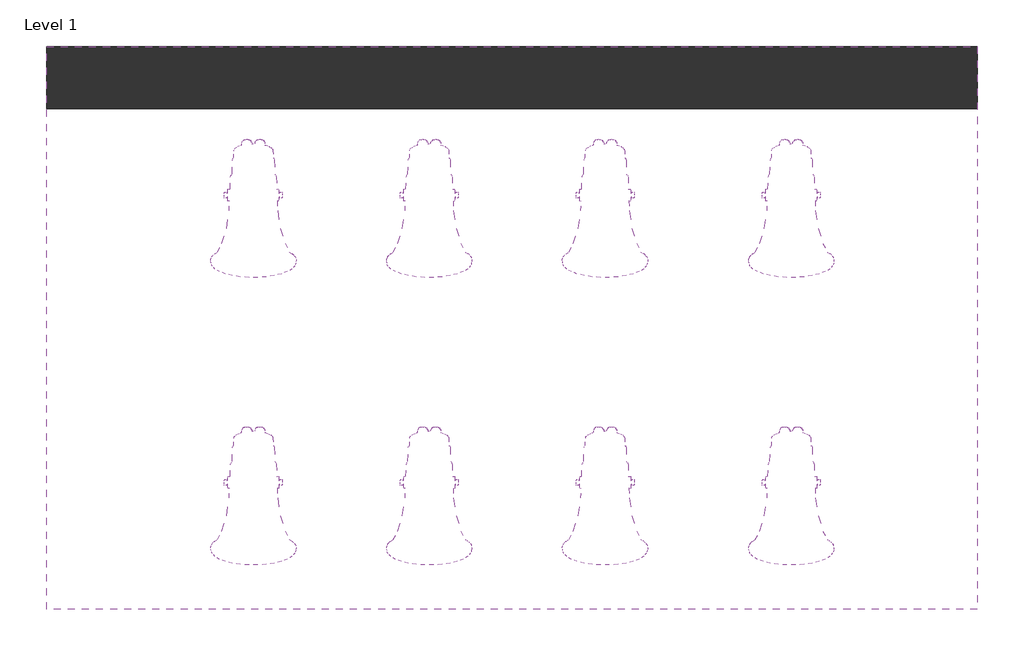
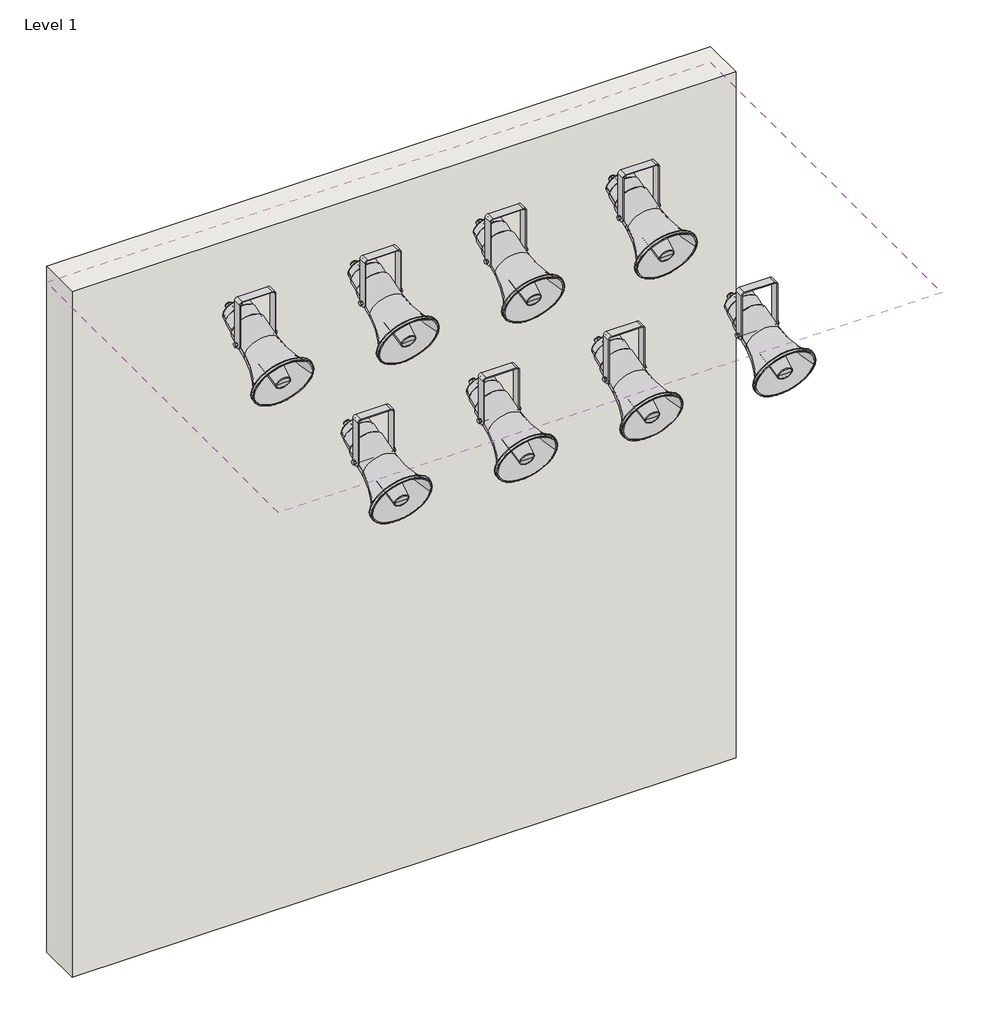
# One storey: 8 proxies, 1 covering, 1 wall.
"""IFC4 building model written with IfcOpenShell, lengths in millimetres."""

from ifc_helpers import new_model, si_unit, frame, origin, origin_with_axes, place, context, project, spatial, polyline, outline, extrude, transform, mapped, element, save
from components import communication_devices_c37ef485

model = new_model("IFC4")

# Units and contexts
model_context = context("Model", 3, world=origin())
ifc_project = project(units=[si_unit("LENGTHUNIT", "METRE", prefix="MILLI")], contexts=[model_context])

# Site, building, storey
site = spatial("IfcSite", under=ifc_project)
building = spatial("IfcBuilding", under=site)
storey = spatial("IfcBuildingStorey", under=building, Name="Level 1", Elevation=0.0)

# Proxies
placement = place(None, origin())
communication_devices_shape = communication_devices_c37ef485(model_context)
element("IfcBuildingElementProxy", 1, Name="DK 15T-EN54-PG : DK 15/T-EN54-PG", ObjectType="DK 15T-EN54-PG : DK 15/T-EN54-PG", at=placement, inside=storey, context=model_context, shape_type="MappedRepresentation", body=[
    mapped(communication_devices_shape, transform((2341.1973575, 1750.5766815, 2438.4), x_axis=(-1.0, 0.0, 0.0), y_axis=(0.0, 1.0, 0.0), z_axis=(0.0, 0.0, -1.0))),
])
element("IfcBuildingElementProxy", 2, Name="DK 15T-EN54-PG : DK 15/T-EN54-PG", ObjectType="DK 15T-EN54-PG : DK 15/T-EN54-PG", at=placement, inside=storey, context=model_context, shape_type="MappedRepresentation", body=[
    mapped(communication_devices_shape, transform((2772.9973575, 1750.5766815, 2438.4), x_axis=(-1.0, 0.0, 0.0), y_axis=(0.0, 1.0, 0.0), z_axis=(0.0, 0.0, -1.0))),
])
element("IfcBuildingElementProxy", 3, Name="DK 15T-EN54-PG : DK 15/T-EN54-PG", ObjectType="DK 15T-EN54-PG : DK 15/T-EN54-PG", at=placement, inside=storey, context=model_context, shape_type="MappedRepresentation", body=[
    mapped(communication_devices_shape, transform((3204.7973575, 1750.5766815, 2438.4), x_axis=(-1.0, 0.0, 0.0), y_axis=(0.0, 1.0, 0.0), z_axis=(0.0, 0.0, -1.0))),
])
element("IfcBuildingElementProxy", 4, Name="DK 15T-EN54-PG : DK 15/T-EN54-PG", ObjectType="DK 15T-EN54-PG : DK 15/T-EN54-PG", at=placement, inside=storey, context=model_context, shape_type="MappedRepresentation", body=[
    mapped(communication_devices_shape, transform((3661.9973575, 1750.5766815, 2438.4), x_axis=(-1.0, 0.0, 0.0), y_axis=(0.0, 1.0, 0.0), z_axis=(0.0, 0.0, -1.0))),
])
element("IfcBuildingElementProxy", 5, Name="DK 15T-EN54-PG : DK 15/T-EN54-PG", ObjectType="DK 15T-EN54-PG : DK 15/T-EN54-PG", at=placement, inside=storey, context=model_context, shape_type="MappedRepresentation", body=[
    mapped(communication_devices_shape, transform((3661.9973575, 1044.1766815, 2438.4), x_axis=(-1.0, 0.0, 0.0), y_axis=(0.0, 1.0, 0.0), z_axis=(0.0, 0.0, -1.0))),
])
element("IfcBuildingElementProxy", 6, Name="DK 15T-EN54-PG : DK 15/T-EN54-PG", ObjectType="DK 15T-EN54-PG : DK 15/T-EN54-PG", at=placement, inside=storey, context=model_context, shape_type="MappedRepresentation", body=[
    mapped(communication_devices_shape, transform((3204.7973575, 1044.1766815, 2438.4), x_axis=(-1.0, 0.0, 0.0), y_axis=(0.0, 1.0, 0.0), z_axis=(0.0, 0.0, -1.0))),
])
element("IfcBuildingElementProxy", 7, Name="DK 15T-EN54-PG : DK 15/T-EN54-PG", ObjectType="DK 15T-EN54-PG : DK 15/T-EN54-PG", at=placement, inside=storey, context=model_context, shape_type="MappedRepresentation", body=[
    mapped(communication_devices_shape, transform((2772.9973575, 1044.1766815, 2438.4), x_axis=(-1.0, 0.0, 0.0), y_axis=(0.0, 1.0, 0.0), z_axis=(0.0, 0.0, -1.0))),
])
element("IfcBuildingElementProxy", 8, Name="DK 15T-EN54-PG : DK 15/T-EN54-PG", ObjectType="DK 15T-EN54-PG : DK 15/T-EN54-PG", at=placement, inside=storey, context=model_context, shape_type="MappedRepresentation", body=[
    mapped(communication_devices_shape, transform((2341.1973575, 1044.1766815, 2438.4), x_axis=(-1.0, 0.0, 0.0), y_axis=(0.0, 1.0, 0.0), z_axis=(0.0, 0.0, -1.0))),
])

# Covering
element("IfcCovering", 9, ObjectType="2' x 4' ACT System", at=placement, inside=storey, context=model_context, shape_type="SweptSolid", body=[
    extrude(outline(polyline([(4119.1973575, 2115.5766815), (4119.1973575, 732.2741036), (1833.1973575, 732.2741036), (1833.1973575, 2115.5766815), (4119.1973575, 2115.5766815)])), frame((0.0, 0.0, 2438.4), z_axis=(0.0, 0.0, 1.0), x_axis=(1.0, 0.0, 0.0)), (0.0, 0.0, 1.0), 57.15),
])

# Wall
element("IfcWall", 10, ObjectType="Exterior - 6\" Generic", at=placement, inside=storey, context=model_context, shape_type="SweptSolid", body=[
    extrude(outline(polyline([(4119.1973575, 1963.1766815), (1833.1973575, 1963.1766815), (1833.1973575, 2115.5766815), (4119.1973575, 2115.5766815), (4119.1973575, 1963.1766815)])), origin_with_axes(), (0.0, 0.0, 1.0), 2495.55),
])

save(model, "model.ifc")
